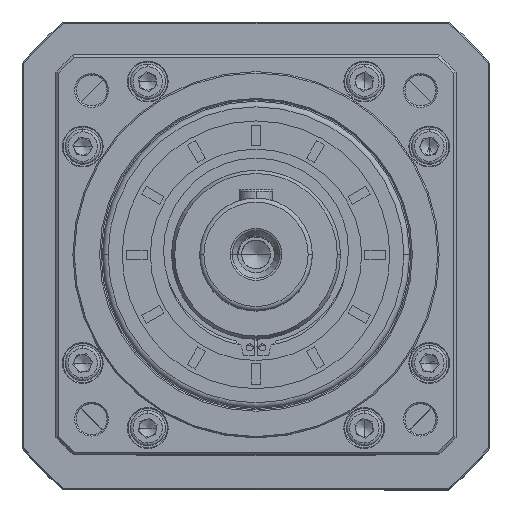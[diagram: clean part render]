
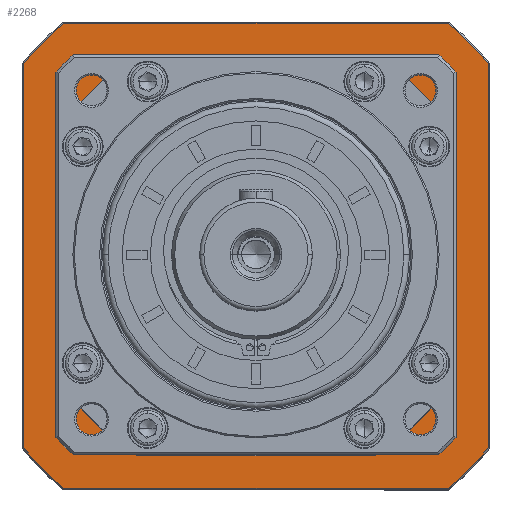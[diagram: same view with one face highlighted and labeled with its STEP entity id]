
A CAD part, top view. The second image highlights one B-rep face of the part: STEP entity #2268.
In plain terms, the highlighted planar face has unit normal (0, 0, 1).
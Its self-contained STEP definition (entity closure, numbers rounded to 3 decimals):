
#449 = EDGE_LOOP ( 'NONE', ( #48878, #79191, #120669, #48623, #55390, #107668, #41579, #11577 ) ) ;
#795 = DIRECTION ( 'NONE',  ( 0., 0., -1. ) ) ;
#978 = LINE ( 'NONE', #74669, #46869 ) ;
#2268 = ADVANCED_FACE ( 'NONE', ( #21676, #42371 ), #90179, .F. ) ;
#2663 = LINE ( 'NONE', #32158, #76631 ) ;
#3473 = DIRECTION ( 'NONE',  ( 1., 0., 0. ) ) ;
#3624 = VERTEX_POINT ( 'NONE', #99598 ) ;
#3800 = LINE ( 'NONE', #102357, #67408 ) ;
#4444 = DIRECTION ( 'NONE',  ( 0., -1., 0. ) ) ;
#4472 = CARTESIAN_POINT ( 'NONE',  ( 238.221, 142.567, -13.331 ) ) ;
#4486 = DIRECTION ( 'NONE',  ( 1., 0., 0. ) ) ;
#7627 = EDGE_CURVE ( 'NONE', #33782, #14611, #978, .T. ) ;
#7838 = CARTESIAN_POINT ( 'NONE',  ( 97.221, 58.812, -13.331 ) ) ;
#9728 = VERTEX_POINT ( 'NONE', #40281 ) ;
#9883 = EDGE_CURVE ( 'NONE', #103231, #83818, #66744, .T. ) ;
#10255 = ORIENTED_EDGE ( 'NONE', *, *, #36255, .F. ) ;
#11577 = ORIENTED_EDGE ( 'NONE', *, *, #61670, .F. ) ;
#13115 = CIRCLE ( 'NONE', #72473, 82. ) ;
#13224 = DIRECTION ( 'NONE',  ( 0., 0., -1. ) ) ;
#14058 = VERTEX_POINT ( 'NONE', #46520 ) ;
#14611 = VERTEX_POINT ( 'NONE', #62178 ) ;
#15941 = VECTOR ( 'NONE', #70862, 1000. ) ;
#17241 = CARTESIAN_POINT ( 'NONE',  ( 97.221, 142.567, -13.331 ) ) ;
#18117 = CARTESIAN_POINT ( 'NONE',  ( 167.721, 100.69, -13.331 ) ) ;
#18470 = CARTESIAN_POINT ( 'NONE',  ( 167.721, 100.69, -13.331 ) ) ;
#18557 = LINE ( 'NONE', #71967, #79217 ) ;
#18688 = VECTOR ( 'NONE', #114736, 1000. ) ;
#18920 = CIRCLE ( 'NONE', #111746, 107. ) ;
#20679 = AXIS2_PLACEMENT_3D ( 'NONE', #24154, #108217, #3473 ) ;
#21251 = DIRECTION ( 'NONE',  ( 0., 0., -1. ) ) ;
#21676 = FACE_OUTER_BOUND ( 'NONE', #56086, .T. ) ;
#21929 = CARTESIAN_POINT ( 'NONE',  ( 209.599, 30.19, -13.331 ) ) ;
#22072 = CARTESIAN_POINT ( 'NONE',  ( 167.721, 100.69, -13.331 ) ) ;
#22578 = EDGE_CURVE ( 'NONE', #25333, #56401, #38376, .T. ) ;
#23969 = DIRECTION ( 'NONE',  ( -1., 0., 0. ) ) ;
#24154 = CARTESIAN_POINT ( 'NONE',  ( 167.721, 100.69, -13.331 ) ) ;
#24878 = VERTEX_POINT ( 'NONE', #4472 ) ;
#25191 = CARTESIAN_POINT ( 'NONE',  ( 167.721, 18.19, -13.331 ) ) ;
#25333 = VERTEX_POINT ( 'NONE', #96296 ) ;
#26430 = DIRECTION ( 'NONE',  ( 0., -1., 0. ) ) ;
#26718 = VERTEX_POINT ( 'NONE', #29599 ) ;
#29599 = CARTESIAN_POINT ( 'NONE',  ( 125.844, 30.19, -13.331 ) ) ;
#30419 = AXIS2_PLACEMENT_3D ( 'NONE', #18470, #92594, #102083 ) ;
#30872 = VECTOR ( 'NONE', #44973, 1000. ) ;
#32158 = CARTESIAN_POINT ( 'NONE',  ( 238.721, 30.19, -13.331 ) ) ;
#33782 = VERTEX_POINT ( 'NONE', #103087 ) ;
#36255 = EDGE_CURVE ( 'NONE', #66171, #44056, #122851, .T. ) ;
#37872 = LINE ( 'NONE', #38070, #18688 ) ;
#38070 = CARTESIAN_POINT ( 'NONE',  ( 238.721, 171.19, -13.331 ) ) ;
#38376 = CIRCLE ( 'NONE', #84911, 82. ) ;
#40281 = CARTESIAN_POINT ( 'NONE',  ( 250.221, 168.827, -13.331 ) ) ;
#41579 = ORIENTED_EDGE ( 'NONE', *, *, #22578, .F. ) ;
#41875 = CARTESIAN_POINT ( 'NONE',  ( 238.221, 29.69, -13.331 ) ) ;
#42157 = CIRCLE ( 'NONE', #54464, 107. ) ;
#42371 = FACE_BOUND ( 'NONE', #449, .T. ) ;
#44056 = VERTEX_POINT ( 'NONE', #59127 ) ;
#44973 = DIRECTION ( 'NONE',  ( 0., 1., 0. ) ) ;
#46520 = CARTESIAN_POINT ( 'NONE',  ( 250.221, 32.552, -13.331 ) ) ;
#46869 = VECTOR ( 'NONE', #84619, 1000. ) ;
#48623 = ORIENTED_EDGE ( 'NONE', *, *, #108061, .F. ) ;
#48878 = ORIENTED_EDGE ( 'NONE', *, *, #51155, .F. ) ;
#51155 = EDGE_CURVE ( 'NONE', #24878, #84951, #94720, .T. ) ;
#51195 = CARTESIAN_POINT ( 'NONE',  ( 167.721, 100.69, -13.331 ) ) ;
#52421 = DIRECTION ( 'NONE',  ( -1., 0., 0. ) ) ;
#54464 = AXIS2_PLACEMENT_3D ( 'NONE', #66540, #795, #56198 ) ;
#55388 = CARTESIAN_POINT ( 'NONE',  ( 209.599, 171.19, -13.331 ) ) ;
#55390 = ORIENTED_EDGE ( 'NONE', *, *, #87950, .F. ) ;
#56086 = EDGE_LOOP ( 'NONE', ( #77884, #106170, #118371, #101332, #77378, #68565, #10255, #56648 ) ) ;
#56198 = DIRECTION ( 'NONE',  ( -1., 0., 0. ) ) ;
#56401 = VERTEX_POINT ( 'NONE', #17241 ) ;
#56648 = ORIENTED_EDGE ( 'NONE', *, *, #66809, .F. ) ;
#57484 = CARTESIAN_POINT ( 'NONE',  ( 99.584, 18.19, -13.331 ) ) ;
#58566 = VERTEX_POINT ( 'NONE', #57484 ) ;
#59127 = CARTESIAN_POINT ( 'NONE',  ( 85.221, 168.827, -13.331 ) ) ;
#60474 = DIRECTION ( 'NONE',  ( -1., 0., 0. ) ) ;
#61446 = DIRECTION ( 'NONE',  ( 1., 0., 0. ) ) ;
#61670 = EDGE_CURVE ( 'NONE', #84951, #25333, #37872, .T. ) ;
#61990 = AXIS2_PLACEMENT_3D ( 'NONE', #22072, #21251, #60474 ) ;
#62178 = CARTESIAN_POINT ( 'NONE',  ( 235.859, 183.19, -13.331 ) ) ;
#63593 = CARTESIAN_POINT ( 'NONE',  ( 85.221, 100.69, -13.331 ) ) ;
#65076 = CARTESIAN_POINT ( 'NONE',  ( 85.221, 32.552, -13.331 ) ) ;
#66171 = VERTEX_POINT ( 'NONE', #65076 ) ;
#66540 = CARTESIAN_POINT ( 'NONE',  ( 167.721, 100.69, -13.331 ) ) ;
#66744 = CIRCLE ( 'NONE', #20679, 82. ) ;
#66809 = EDGE_CURVE ( 'NONE', #58566, #66171, #42157, .T. ) ;
#67126 = DIRECTION ( 'NONE',  ( 0., -1., 0. ) ) ;
#67408 = VECTOR ( 'NONE', #77024, 1000. ) ;
#68565 = ORIENTED_EDGE ( 'NONE', *, *, #100294, .F. ) ;
#70862 = DIRECTION ( 'NONE',  ( 0., 1., 0. ) ) ;
#71467 = CARTESIAN_POINT ( 'NONE',  ( 238.221, 58.812, -13.331 ) ) ;
#71967 = CARTESIAN_POINT ( 'NONE',  ( 97.221, 29.69, -13.331 ) ) ;
#72473 = AXIS2_PLACEMENT_3D ( 'NONE', #86219, #76277, #67126 ) ;
#74018 = LINE ( 'NONE', #25191, #106621 ) ;
#74669 = CARTESIAN_POINT ( 'NONE',  ( 167.721, 183.19, -13.331 ) ) ;
#76277 = DIRECTION ( 'NONE',  ( 0., 0., 1. ) ) ;
#76631 = VECTOR ( 'NONE', #61446, 1000. ) ;
#77024 = DIRECTION ( 'NONE',  ( 0., -1., 0. ) ) ;
#77378 = ORIENTED_EDGE ( 'NONE', *, *, #7627, .F. ) ;
#77884 = ORIENTED_EDGE ( 'NONE', *, *, #93918, .F. ) ;
#79191 = ORIENTED_EDGE ( 'NONE', *, *, #116238, .F. ) ;
#79217 = VECTOR ( 'NONE', #4444, 1000. ) ;
#79816 = DIRECTION ( 'NONE',  ( 0., 0., 1. ) ) ;
#83818 = VERTEX_POINT ( 'NONE', #71467 ) ;
#84058 = EDGE_CURVE ( 'NONE', #14058, #3624, #18920, .T. ) ;
#84619 = DIRECTION ( 'NONE',  ( 1., 0., 0. ) ) ;
#84911 = AXIS2_PLACEMENT_3D ( 'NONE', #51195, #79816, #4486 ) ;
#84951 = VERTEX_POINT ( 'NONE', #55388 ) ;
#86219 = CARTESIAN_POINT ( 'NONE',  ( 167.721, 100.69, -13.331 ) ) ;
#87950 = EDGE_CURVE ( 'NONE', #119243, #26718, #13115, .T. ) ;
#88358 = DIRECTION ( 'NONE',  ( 0., 0., -1. ) ) ;
#88597 = AXIS2_PLACEMENT_3D ( 'NONE', #18117, #113360, #26430 ) ;
#90179 = PLANE ( 'NONE',  #90280 ) ;
#90280 = AXIS2_PLACEMENT_3D ( 'NONE', #108858, #13224, #23969 ) ;
#92594 = DIRECTION ( 'NONE',  ( 0., 0., -1. ) ) ;
#93463 = CIRCLE ( 'NONE', #61990, 107. ) ;
#93918 = EDGE_CURVE ( 'NONE', #3624, #58566, #74018, .T. ) ;
#94720 = CIRCLE ( 'NONE', #88597, 82. ) ;
#96296 = CARTESIAN_POINT ( 'NONE',  ( 125.844, 171.19, -13.331 ) ) ;
#99598 = CARTESIAN_POINT ( 'NONE',  ( 235.859, 18.19, -13.331 ) ) ;
#100294 = EDGE_CURVE ( 'NONE', #44056, #33782, #93463, .T. ) ;
#101332 = ORIENTED_EDGE ( 'NONE', *, *, #115829, .F. ) ;
#102083 = DIRECTION ( 'NONE',  ( -1., 0., 0. ) ) ;
#102357 = CARTESIAN_POINT ( 'NONE',  ( 250.221, 100.69, -13.331 ) ) ;
#103087 = CARTESIAN_POINT ( 'NONE',  ( 99.584, 183.19, -13.331 ) ) ;
#103231 = VERTEX_POINT ( 'NONE', #21929 ) ;
#105795 = DIRECTION ( 'NONE',  ( -1., 0., 0. ) ) ;
#106170 = ORIENTED_EDGE ( 'NONE', *, *, #84058, .F. ) ;
#106621 = VECTOR ( 'NONE', #52421, 1000. ) ;
#107668 = ORIENTED_EDGE ( 'NONE', *, *, #118329, .F. ) ;
#108061 = EDGE_CURVE ( 'NONE', #26718, #103231, #2663, .T. ) ;
#108217 = DIRECTION ( 'NONE',  ( 0., 0., 1. ) ) ;
#108858 = CARTESIAN_POINT ( 'NONE',  ( 167.721, 100.69, -13.331 ) ) ;
#111746 = AXIS2_PLACEMENT_3D ( 'NONE', #116568, #88358, #105795 ) ;
#113360 = DIRECTION ( 'NONE',  ( 0., 0., 1. ) ) ;
#114736 = DIRECTION ( 'NONE',  ( -1., 0., 0. ) ) ;
#115829 = EDGE_CURVE ( 'NONE', #14611, #9728, #118370, .T. ) ;
#116238 = EDGE_CURVE ( 'NONE', #83818, #24878, #121310, .T. ) ;
#116568 = CARTESIAN_POINT ( 'NONE',  ( 167.721, 100.69, -13.331 ) ) ;
#118029 = EDGE_CURVE ( 'NONE', #9728, #14058, #3800, .T. ) ;
#118329 = EDGE_CURVE ( 'NONE', #56401, #119243, #18557, .T. ) ;
#118370 = CIRCLE ( 'NONE', #30419, 107. ) ;
#118371 = ORIENTED_EDGE ( 'NONE', *, *, #118029, .F. ) ;
#119243 = VERTEX_POINT ( 'NONE', #7838 ) ;
#120669 = ORIENTED_EDGE ( 'NONE', *, *, #9883, .F. ) ;
#121310 = LINE ( 'NONE', #41875, #15941 ) ;
#122851 = LINE ( 'NONE', #63593, #30872 ) ;
